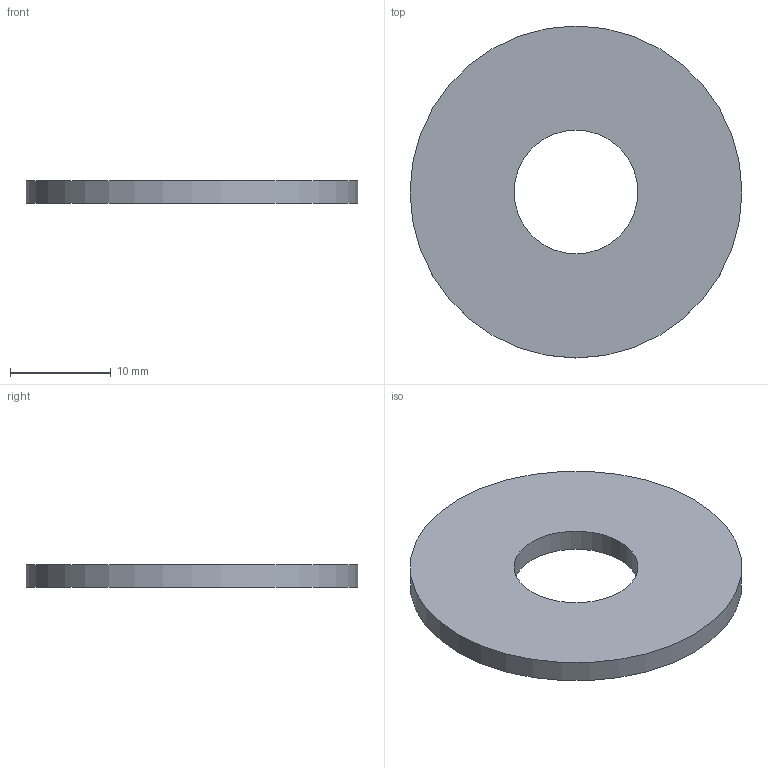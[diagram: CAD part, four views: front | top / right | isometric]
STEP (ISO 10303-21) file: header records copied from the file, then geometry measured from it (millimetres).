
FILE_DESCRIPTION(('FreeCAD Model'),'2;1');
FILE_NAME('Open CASCADE Shape Model','2026-09-22T01:38:06',('FreeCAD'),( 'FreeCAD'),'Open CASCADE STEP processor 7.8','FreeCAD','Unknown');
FILE_SCHEMA(('AUTOMOTIVE_DESIGN { 1 0 10303 214 1 1 1 1 }'));
Length unit declared in the file: millimetre
Products named in the file (1): Open CASCADE STEP translator 7.8 3
Bounding box: 33 x 33 x 2.2 mm (x, y, z)
Volume: 1620.2 mm3; surface area: 1786 mm2
Topology: 1 solids, 1 shells, 4 faces, 6 edges, 4 vertices
Faces by surface type: cylinder 2, plane 2
Full cylindrical faces by diameter (mm): 12.3 x1, 33 x1
Entity records: 108 total; most frequent: DIRECTION 20, CARTESIAN_POINT 15, ORIENTED_EDGE 12, AXIS2_PLACEMENT_3D 9, FACE_BOUND 6, EDGE_LOOP 6, EDGE_CURVE 6, ADVANCED_FACE 4
